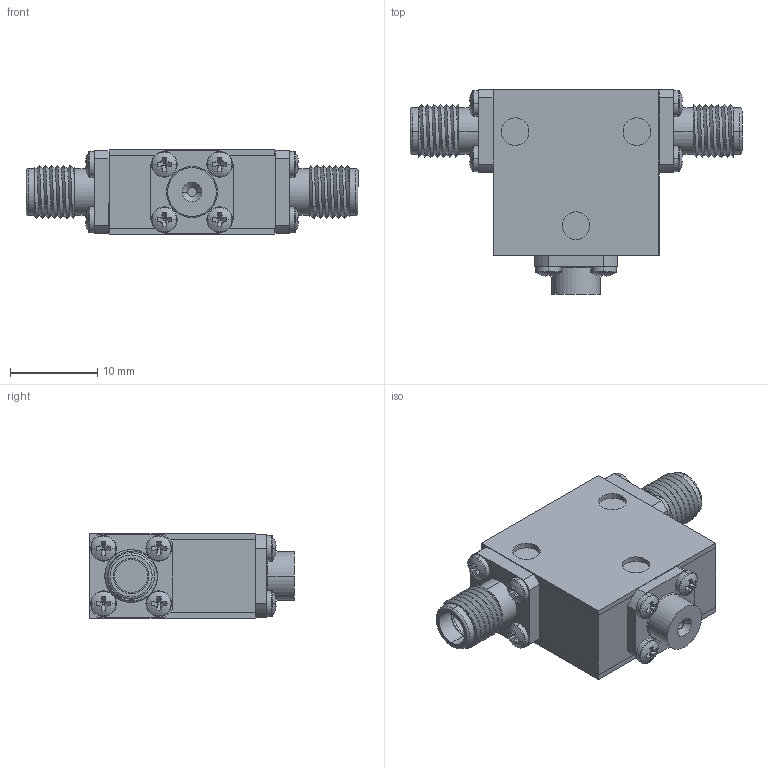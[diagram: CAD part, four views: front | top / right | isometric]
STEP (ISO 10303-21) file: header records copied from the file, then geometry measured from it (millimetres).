
FILE_DESCRIPTION (( 'STEP AP214' ), '1' );
FILE_NAME ('Package 10 Iso FF.step', '2021-12-01T20:56:51', ( '' ), ( '' ), 'SwSTEP 2.0', 'SolidWorks 2016', '' );
FILE_SCHEMA (( 'AUTOMOTIVE_DESIGN' ));
Length unit declared in the file: inch
Products named in the file (6): Package 10 Iso FF; Delta SMA-Female 0.375 flange Threaded; pan cross head_ai_CR-PHMS 0.06-80x0.125x0.125-N; Package 10; 0.375 flange; Package Size 10
Assembly tree (17 placements, depth 2):
  Package 10 Iso FF
    Package Size 10
    Package 10
    pan cross head_ai_CR-PHMS 0.06-80x0.125x0.125-N  x12
    0.375 flange
    Delta SMA-Female 0.375 flange Threaded  x2
Bounding box: 38.1 x 23.5 x 9.65 mm (x, y, z)
Volume: 4157.9 mm3; surface area: 4940.5 mm2
Topology: 17 solids, 17 shells, 414 faces, 942 edges, 582 vertices
Faces by surface type: plane 228, cylinder 122, torus 30, sphere 24, bspline 6, cone 4
Entity records: 4765 total; most frequent: CARTESIAN_POINT 1369, DIRECTION 717, ORIENTED_EDGE 594, EDGE_CURVE 297, AXIS2_PLACEMENT_3D 289, VERTEX_POINT 191, EDGE_LOOP 160, CIRCLE 150
